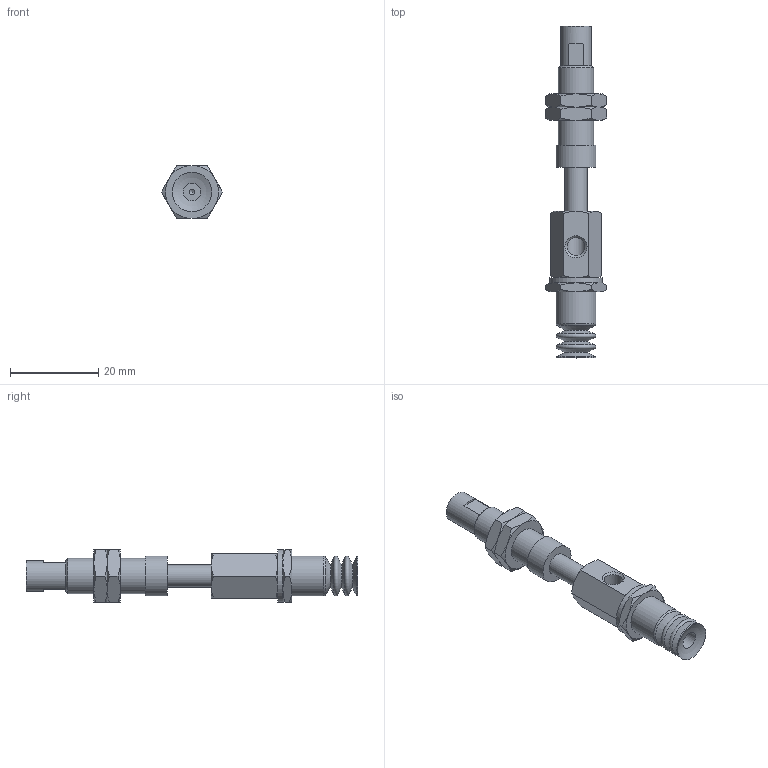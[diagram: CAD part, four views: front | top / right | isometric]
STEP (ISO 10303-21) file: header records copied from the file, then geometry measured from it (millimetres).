
FILE_DESCRIPTION(('STEP AP203'),'1');
FILE_NAME('.stp','2025-04-03T06:26:42',(' '),(' '),'Spatial InterOp 3D',' ',' ');
FILE_SCHEMA(('CONFIG_CONTROL_DESIGN'));
Length unit declared in the file: millimetre
Products named in the file (7): BNABPCYS-10-10-※; Adapter_napc-10-T; Connector_s-10-10; Nut napc_s-10-10; NAPCTS-10-10-FBODY; NAPCTS-10-10-MBODY; BPCG-10-※
Assembly tree (7 placements, depth 2):
  BNABPCYS-10-10-※
    Adapter_napc-10-T
    Connector_s-10-10
    Nut napc_s-10-10  x2
    NAPCTS-10-10-FBODY
    NAPCTS-10-10-MBODY
    BPCG-10-※
Bounding box: 13.86 x 75.2 x 12 mm (x, y, z)
Volume: 4480.4 mm3; surface area: 4909.9 mm2
Topology: 7 solids, 7 shells, 159 faces, 329 edges, 193 vertices
Faces by surface type: cone 69, plane 59, cylinder 21, torus 8, sphere 2
Full cylindrical faces by diameter (mm): 1.25 x1, 4 x1, 4.134 x3, 5 x8, 7 x1, 7.188 x2, 8 x1, 9 x3, 12 x1
Entity records: 4024 total; most frequent: CARTESIAN_POINT 1069, DIRECTION 548, ORIENTED_EDGE 458, AXIS2_PLACEMENT_3D 251, EDGE_CURVE 229, EDGE_LOOP 202, FACE_OUTER_BOUND 166, VERTEX_POINT 162
